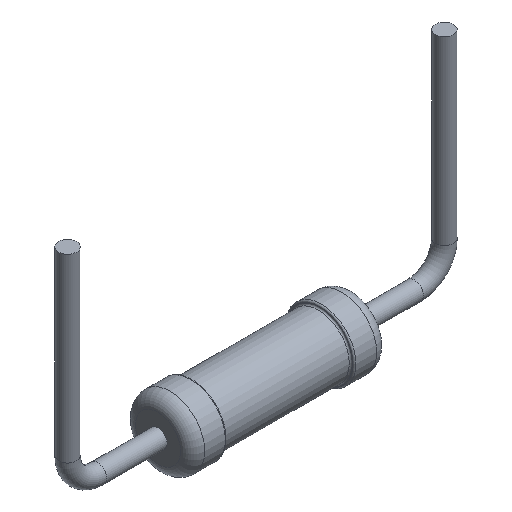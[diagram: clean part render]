
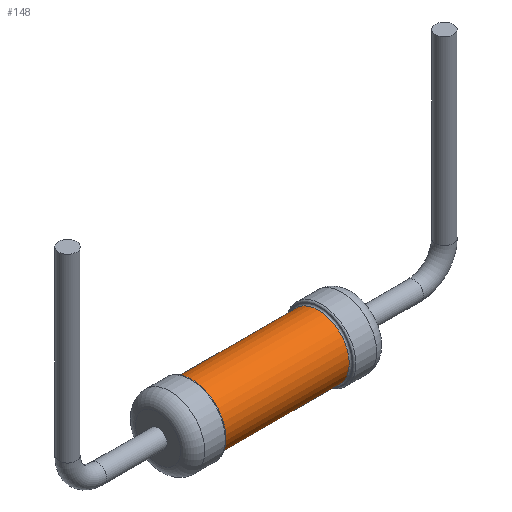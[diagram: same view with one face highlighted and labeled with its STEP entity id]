
A CAD part, isometric view. The second image highlights one B-rep face of the part: STEP entity #148.
In plain terms, the highlighted cylindrical face has radius 1.028 mm (diameter 2.057 mm), a full revolution.
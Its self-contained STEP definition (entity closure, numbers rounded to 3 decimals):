
#148=ADVANCED_FACE('',(#335,#337),#339,.T.);
#335=FACE_OUTER_BOUND('',#336,.T.);
#336=EDGE_LOOP('',(#451));
#337=FACE_OUTER_BOUND('',#338,.T.);
#338=EDGE_LOOP('',(#452));
#339=CYLINDRICAL_SURFACE('',#340,1.028);
#340=AXIS2_PLACEMENT_3D('',#341,#342,#343);
#341=CARTESIAN_POINT('',(2.066,0.,0.));
#342=DIRECTION('',(-1.,0.,0.));
#343=DIRECTION('',(0.,0.,1.));
#451=ORIENTED_EDGE('',*,*,#481,.T.);
#452=ORIENTED_EDGE('',*,*,#482,.F.);
#481=EDGE_CURVE('',#510,#510,#511,.T.);
#482=EDGE_CURVE('',#512,#512,#513,.T.);
#510=VERTEX_POINT('',#577);
#511=CIRCLE('',#578,1.028);
#512=VERTEX_POINT('',#582);
#513=CIRCLE('',#583,1.028);
#577=CARTESIAN_POINT('',(2.066,0.,1.028));
#578=AXIS2_PLACEMENT_3D('',#579,#580,#581);
#579=CARTESIAN_POINT('',(2.066,0.,0.));
#580=DIRECTION('',(-1.,0.,0.));
#581=DIRECTION('',(0.,0.,1.));
#582=CARTESIAN_POINT('',(-2.066,0.,1.028));
#583=AXIS2_PLACEMENT_3D('',#584,#585,#586);
#584=CARTESIAN_POINT('',(-2.066,0.,0.));
#585=DIRECTION('',(-1.,0.,0.));
#586=DIRECTION('',(0.,0.,1.));
